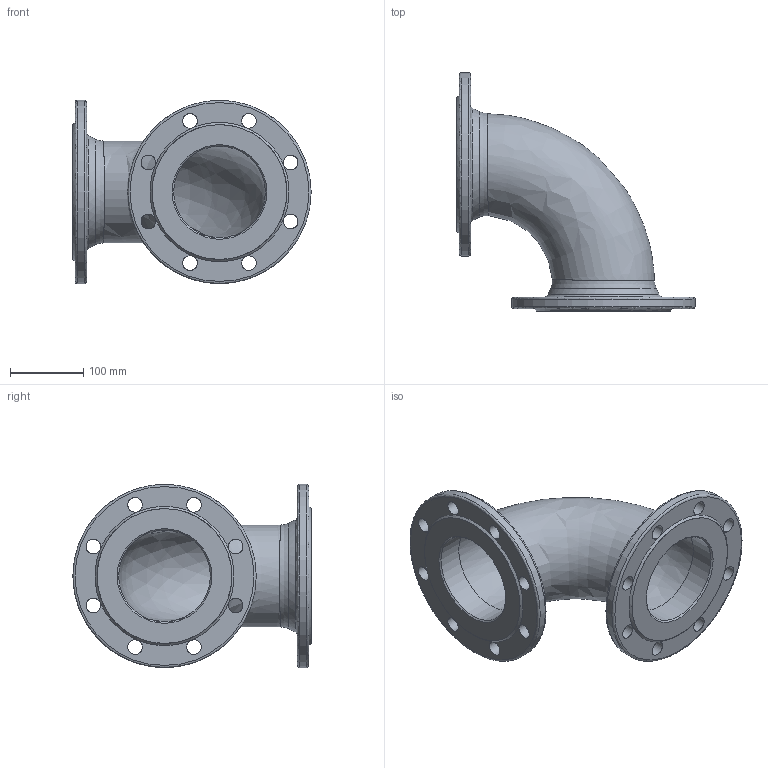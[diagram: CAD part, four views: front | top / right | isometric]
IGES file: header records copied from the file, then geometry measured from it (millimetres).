
Start section: SolidWorks IGES file using analytic representation for surfaces
Global section: file name: \\avksan2\techshare\PBM outline export from Enovia\O_712_0610_DN125_1X_REV01.igs; native system: SolidWorks 2019; preprocessor: SolidWorks 2019; author: pbm; date: 211119.105457; units: millimetre
Bounding box: 325 x 325 x 250 mm (x, y, z)
Surface area: 420738.5 mm2 (no closed solid volume)
Topology: 0 solids, 0 shells, 120 faces, 1243 edges, 1191 vertices
Faces by surface type: revolution 77, bspline 43
